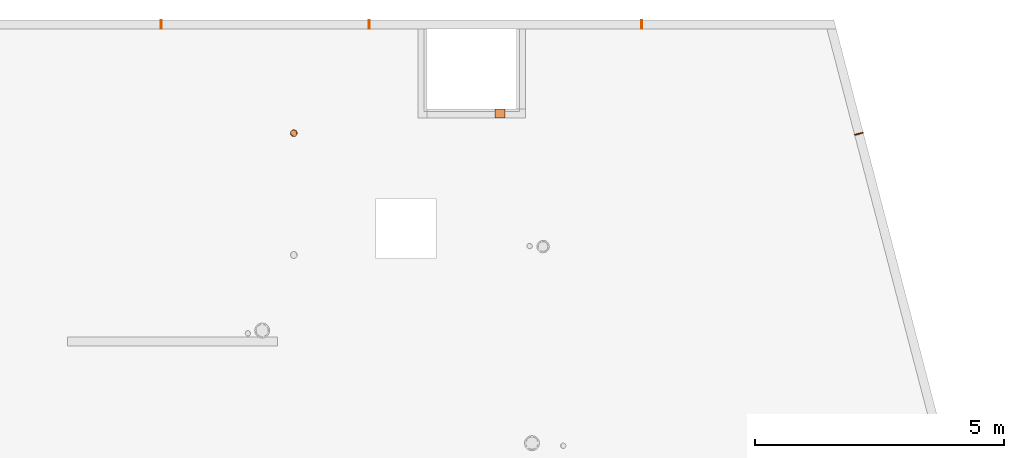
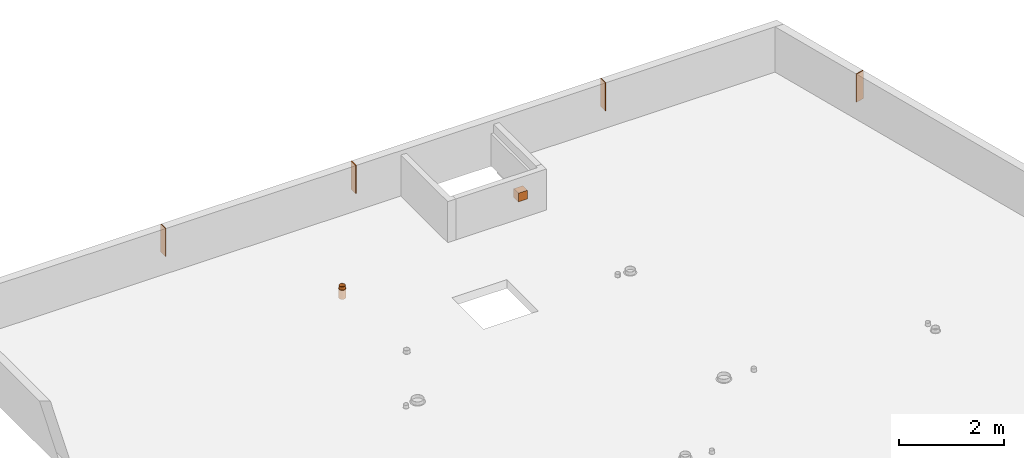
# One storey, part 12 of 12: 6 proxies.
"""IFC2X3 building model written with IfcOpenShell, lengths in centimetres."""

from ifc_helpers import new_model, entity, si_unit, converted_unit, derived_unit, direction, frame, frame_2d, origin, place, context, subcontext, project, spatial, rectangle, circle, hollow_circle, extrude, source, transform, mapped, material, type_object, type_shapes, element, save


model = new_model("IFC2X3")

# Units and contexts
model_context = context("Model", 3, precision=0.001, world=origin(), true_north=direction((6.12303176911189e-17, 1.0)))
body_context = subcontext(model_context, "Body", "Model", "MODEL_VIEW")
ifc_project = project(units=[si_unit("LENGTHUNIT", "METRE", prefix="CENTI"), si_unit("AREAUNIT", "SQUARE_METRE"), si_unit("VOLUMEUNIT", "CUBIC_METRE"), converted_unit("PLANEANGLEUNIT", "DEGREE", entity("IfcRatioMeasure", 0.0174532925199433), si_unit("PLANEANGLEUNIT", "RADIAN"), dimensions=[0, 0, 0, 0, 0, 0, 0]), si_unit("MASSUNIT", "GRAM", prefix="KILO"), derived_unit("MASSDENSITYUNIT", [(si_unit("MASSUNIT", "GRAM", prefix="KILO"), 1), (si_unit("LENGTHUNIT", "METRE"), -3)]), si_unit("TIMEUNIT", "SECOND"), si_unit("FREQUENCYUNIT", "HERTZ"), si_unit("THERMODYNAMICTEMPERATUREUNIT", "DEGREE_CELSIUS"), derived_unit("THERMALTRANSMITTANCEUNIT", [(si_unit("MASSUNIT", "GRAM", prefix="KILO"), 1), (si_unit("THERMODYNAMICTEMPERATUREUNIT", "KELVIN"), -1), (si_unit("TIMEUNIT", "SECOND"), -3)]), derived_unit("VOLUMETRICFLOWRATEUNIT", [(si_unit("LENGTHUNIT", "METRE"), 3), (si_unit("TIMEUNIT", "SECOND"), -1)]), si_unit("ELECTRICCURRENTUNIT", "AMPERE"), si_unit("ELECTRICVOLTAGEUNIT", "VOLT"), si_unit("POWERUNIT", "WATT"), si_unit("FORCEUNIT", "NEWTON"), si_unit("ILLUMINANCEUNIT", "LUX"), si_unit("LUMINOUSFLUXUNIT", "LUMEN"), si_unit("LUMINOUSINTENSITYUNIT", "CANDELA"), derived_unit("USERDEFINED", [(si_unit("MASSUNIT", "GRAM", prefix="KILO"), -1), (si_unit("LENGTHUNIT", "METRE"), -2), (si_unit("TIMEUNIT", "SECOND"), 3), (si_unit("LUMINOUSFLUXUNIT", "LUMEN"), 1)]), derived_unit("LINEARVELOCITYUNIT", [(si_unit("LENGTHUNIT", "METRE"), 1), (si_unit("TIMEUNIT", "SECOND"), -1)]), si_unit("PRESSUREUNIT", "PASCAL"), derived_unit("USERDEFINED", [(si_unit("LENGTHUNIT", "METRE"), -2), (si_unit("MASSUNIT", "GRAM", prefix="KILO"), 1), (si_unit("TIMEUNIT", "SECOND"), -2)])], contexts=[model_context])

# Site, building, storey
site_placement = place(None, origin())
site = spatial("IfcSite", under=ifc_project, at=site_placement, Name="Default", CompositionType="ELEMENT")
building_placement = place(site_placement, origin())
building = spatial("IfcBuilding", under=site, at=building_placement, Name="CAGE 03", CompositionType="ELEMENT")
storey_placement = place(building_placement, frame((0.0, 0.0, 1690.0)))
storey = spatial("IfcBuildingStorey", under=building, at=storey_placement, Name="R+6", CompositionType="ELEMENT", Elevation=1690.0)

# Proxies
ifc_material_1 = material(Name="BBGO_Résa")
building_element_proxy_type_1 = type_object("IfcBuildingElementProxyType", Name="J.F.", PredefinedType="NOTDEFINED", material=ifc_material_1)
shared_shape_1 = source(origin(), body_context, "Body", "SweptSolid", [
    extrude(rectangle(XDim=17.9999999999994, YDim=1.99999999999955, at=frame_2d((4.33431068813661e-13, 0.0), x_axis=(1.0, 0.0))), frame((9777.36582014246, 5119.6606660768, 1730.0), z_axis=(0.0, 0.0, 1.0), x_axis=(0.0, 1.0, 0.0)), (0.0, 0.0, 1.0), 64.9999999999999),
])
type_shapes(building_element_proxy_type_1, [shared_shape_1])
proxy_1_placement = place(storey_placement, frame((0.0, 0.0, -1690.0)))
element("IfcBuildingElementProxy", 1, at=proxy_1_placement, inside=storey, type_object=building_element_proxy_type_1, material=ifc_material_1, Name="BBGO-Résa rect et circ:J.F.", ObjectType="J.F.", context=body_context, shape_type="MappedRepresentation", body=[
    mapped(shared_shape_1, transform((0.0, 0.0, 0.0), scale=1.0)),
])
building_element_proxy_type_2 = type_object("IfcBuildingElementProxyType", Name="J.F.", PredefinedType="NOTDEFINED", material=ifc_material_1)
shared_shape_2 = source(origin(), body_context, "Body", "SweptSolid", [
    extrude(rectangle(XDim=17.9999999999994, YDim=1.99999999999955, at=frame_2d((4.33431068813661e-13, 0.0), x_axis=(1.0, 0.0))), frame((10194.3658201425, 5119.66066607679, 1730.0), z_axis=(0.0, 0.0, 1.0), x_axis=(0.0, 1.0, 0.0)), (0.0, 0.0, 1.0), 64.9999999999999),
])
type_shapes(building_element_proxy_type_2, [shared_shape_2])
proxy_2_placement = place(storey_placement, frame((0.0, 0.0, -1690.0)))
element("IfcBuildingElementProxy", 2, at=proxy_2_placement, inside=storey, type_object=building_element_proxy_type_2, material=ifc_material_1, Name="BBGO-Résa rect et circ:J.F.", ObjectType="J.F.", context=body_context, shape_type="MappedRepresentation", body=[
    mapped(shared_shape_2, transform((0.0, 0.0, 0.0), scale=1.0)),
])
building_element_proxy_type_3 = type_object("IfcBuildingElementProxyType", Name="J.F.", PredefinedType="NOTDEFINED", material=ifc_material_1)
shared_shape_3 = source(origin(), body_context, "Body", "SweptSolid", [
    extrude(rectangle(XDim=17.9999999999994, YDim=1.99999999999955, at=frame_2d((4.33431068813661e-13, 0.0), x_axis=(1.0, 0.0))), frame((10741.3658201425, 5119.66066607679, 1730.0), z_axis=(0.0, 0.0, 1.0), x_axis=(0.0, 1.0, 0.0)), (0.0, 0.0, 1.0), 64.9999999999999),
])
type_shapes(building_element_proxy_type_3, [shared_shape_3])
proxy_3_placement = place(storey_placement, frame((0.0, 0.0, -1690.0)))
element("IfcBuildingElementProxy", 3, at=proxy_3_placement, inside=storey, type_object=building_element_proxy_type_3, material=ifc_material_1, Name="BBGO-Résa rect et circ:J.F.", ObjectType="J.F.", context=body_context, shape_type="MappedRepresentation", body=[
    mapped(shared_shape_3, transform((0.0, 0.0, 0.0), scale=1.0)),
])
building_element_proxy_type_4 = type_object("IfcBuildingElementProxyType", Name="J.F.", PredefinedType="NOTDEFINED", material=ifc_material_1)
shared_shape_4 = source(origin(), body_context, "Body", "SweptSolid", [
    extrude(rectangle(XDim=18.0, YDim=2.00000000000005, at=frame_2d((1.10134124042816e-13, 4.18998169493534e-13), x_axis=(1.0, 0.0))), frame((11176.6463768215, 4900.55509070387, 1730.0), z_axis=(0.0, 0.0, 1.0), x_axis=(0.967549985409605, 0.252679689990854, 0.0)), (0.0, 0.0, 1.0), 64.9999999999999),
])
type_shapes(building_element_proxy_type_4, [shared_shape_4])
proxy_4_placement = place(storey_placement, frame((0.0, 0.0, -1690.0)))
element("IfcBuildingElementProxy", 4, at=proxy_4_placement, inside=storey, type_object=building_element_proxy_type_4, material=ifc_material_1, Name="BBGO-Résa rect et circ:J.F.", ObjectType="J.F.", context=body_context, shape_type="MappedRepresentation", body=[
    mapped(shared_shape_4, transform((0.0, 0.0, 0.0), scale=1.0)),
])
building_element_proxy_type_5 = type_object("IfcBuildingElementProxyType", Name="Réservation", PredefinedType="NOTDEFINED", material=ifc_material_1)
shared_shape_5 = source(origin(), body_context, "Body", "SweptSolid", [
    extrude(rectangle(XDim=17.9999999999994, YDim=20.0000000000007, at=frame_2d((4.33431068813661e-13, -8.66862137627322e-13), x_axis=(1.0, 0.0))), frame((10457.3658201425, 4941.66066607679, 1730.0), z_axis=(0.0, 0.0, 1.0), x_axis=(0.0, 1.0, 0.0)), (0.0, 0.0, 1.0), 20.0),
])
type_shapes(building_element_proxy_type_5, [shared_shape_5])
proxy_5_placement = place(storey_placement, frame((0.0, 0.0, -1690.0)))
element("IfcBuildingElementProxy", 5, at=proxy_5_placement, inside=storey, type_object=building_element_proxy_type_5, material=ifc_material_1, Name="BBGO-Résa rect et circ:Réservation", ObjectType="Réservation", context=body_context, shape_type="MappedRepresentation", body=[
    mapped(shared_shape_5, transform((0.0, 0.0, 0.0), scale=1.0)),
])
ifc_material_2 = material(Name="Conduit EP")
building_element_proxy_type_6 = type_object("IfcBuildingElementProxyType", Name="EP 126", PredefinedType="NOTDEFINED", material=ifc_material_2)
shared_shape_6 = source(origin(), body_context, "Body", "SweptSolid", [
    extrude(circle(Radius=7.0, at=frame_2d((0.0, -1.13088120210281e-14), x_axis=(1.0, 0.0))), frame((0.0, 0.0, -21.0)), (0.0, 0.0, 1.0), 21.0),
    extrude(hollow_circle(Radius=6.25, WallThickness=0.25, at=frame_2d((0.0, -1.00971535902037e-14), x_axis=(1.0, 0.0))), frame((0.0, 0.0, -21.0)), (0.0, 0.0, 1.0), 28.5),
])
type_shapes(building_element_proxy_type_6, [shared_shape_6])
proxy_6_placement = place(storey_placement, frame((10043.549740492, 4901.77311678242, 0.0)))
element("IfcBuildingElementProxy", 6, at=proxy_6_placement, inside=storey, type_object=building_element_proxy_type_6, material=ifc_material_2, Name="Galette - Résa - PVC5:EP 126", ObjectType="EP 126", context=body_context, shape_type="MappedRepresentation", body=[
    mapped(shared_shape_6, transform((0.0, 0.0, 0.0), scale=1.0)),
])

save(model, "model.ifc")
